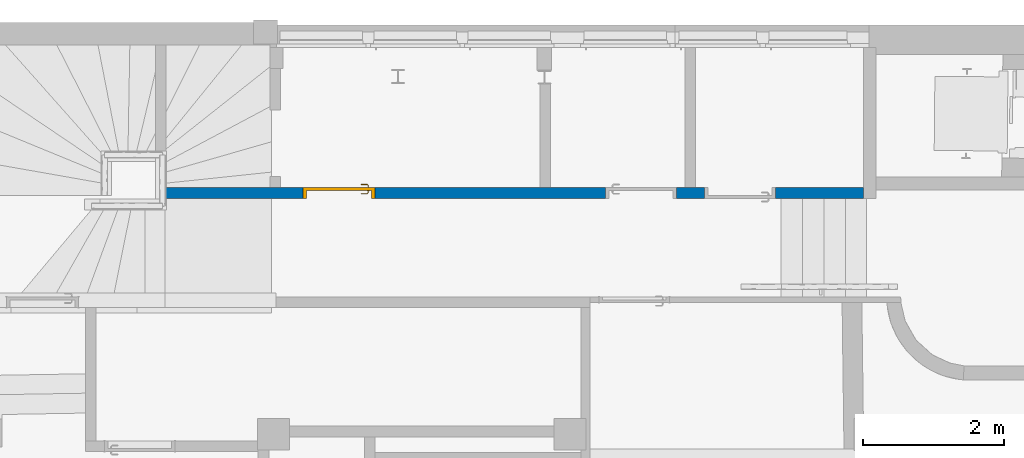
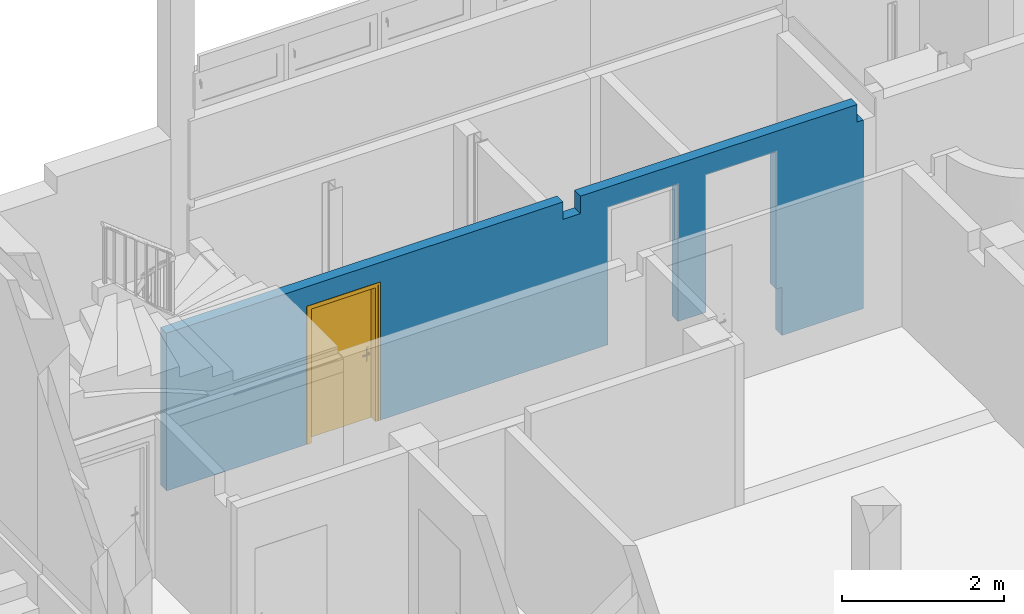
# One storey, part 13 of 39: 1 door, 1 wall, 3 openings.
"""IFC4 building model written with IfcOpenShell, lengths in metres."""

from ifc_helpers import new_model, entity, si_unit, converted_unit, derived_unit, direction, frame, origin, place, context, subcontext, project, spatial, indexed_curve, outline, extrude, polygons, source, transform, mapped, material, material_list, layer, layer_set, constituent, constituent_set, type_object, type_shapes, element, fill, save


model = new_model("IFC4")

# Units and contexts
model_context = context("Model", 3, precision=1e-05, world=origin(), true_north=direction((6.12303176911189e-17, 1.0)))
body_context = subcontext(model_context, "Body", "Model", "MODEL_VIEW")
ifc_project = project(units=[si_unit("LENGTHUNIT", "METRE"), si_unit("AREAUNIT", "SQUARE_METRE"), si_unit("VOLUMEUNIT", "CUBIC_METRE"), converted_unit("PLANEANGLEUNIT", "DEGREE", entity("IfcRatioMeasure", 0.0174532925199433), si_unit("PLANEANGLEUNIT", "RADIAN"), dimensions=[0, 0, 0, 0, 0, 0, 0]), si_unit("MASSUNIT", "GRAM", prefix="KILO"), derived_unit("MASSDENSITYUNIT", [(si_unit("MASSUNIT", "GRAM", prefix="KILO"), 1), (si_unit("LENGTHUNIT", "METRE"), -3)]), derived_unit("MOMENTOFINERTIAUNIT", [(si_unit("LENGTHUNIT", "METRE"), 4)]), si_unit("TIMEUNIT", "SECOND"), si_unit("FREQUENCYUNIT", "HERTZ"), si_unit("THERMODYNAMICTEMPERATUREUNIT", "DEGREE_CELSIUS"), derived_unit("THERMALTRANSMITTANCEUNIT", [(si_unit("MASSUNIT", "GRAM", prefix="KILO"), 1), (si_unit("THERMODYNAMICTEMPERATUREUNIT", "KELVIN"), -1), (si_unit("TIMEUNIT", "SECOND"), -3)]), derived_unit("VOLUMETRICFLOWRATEUNIT", [(si_unit("LENGTHUNIT", "METRE"), 3), (si_unit("TIMEUNIT", "SECOND"), -1)]), si_unit("ELECTRICCURRENTUNIT", "AMPERE"), si_unit("ELECTRICVOLTAGEUNIT", "VOLT"), si_unit("POWERUNIT", "WATT"), si_unit("FORCEUNIT", "NEWTON", prefix="KILO"), si_unit("ILLUMINANCEUNIT", "LUX"), si_unit("LUMINOUSFLUXUNIT", "LUMEN"), si_unit("LUMINOUSINTENSITYUNIT", "CANDELA"), derived_unit("USERDEFINED", [(si_unit("MASSUNIT", "GRAM", prefix="KILO"), -1), (si_unit("LENGTHUNIT", "METRE"), -2), (si_unit("TIMEUNIT", "SECOND"), 3), (si_unit("LUMINOUSFLUXUNIT", "LUMEN"), 1)]), derived_unit("LINEARVELOCITYUNIT", [(si_unit("LENGTHUNIT", "METRE"), 1), (si_unit("TIMEUNIT", "SECOND"), -1)]), si_unit("PRESSUREUNIT", "PASCAL"), derived_unit("USERDEFINED", [(si_unit("LENGTHUNIT", "METRE"), -2), (si_unit("MASSUNIT", "GRAM", prefix="KILO"), 1), (si_unit("TIMEUNIT", "SECOND"), -2)]), derived_unit("LINEARFORCEUNIT", [(si_unit("MASSUNIT", "GRAM", prefix="KILO"), 1), (si_unit("LENGTHUNIT", "METRE"), 1), (si_unit("TIMEUNIT", "SECOND"), -2), (si_unit("LENGTHUNIT", "METRE"), -1)]), derived_unit("PLANARFORCEUNIT", [(si_unit("MASSUNIT", "GRAM", prefix="KILO"), 1), (si_unit("LENGTHUNIT", "METRE"), 1), (si_unit("TIMEUNIT", "SECOND"), -2), (si_unit("LENGTHUNIT", "METRE"), -2)])], contexts=[model_context])

# Site, building, storey
site_placement = place(None, origin())
site = spatial("IfcSite", under=ifc_project, at=site_placement, Name="Default", CompositionType="ELEMENT")
building_placement = place(site_placement, origin())
building = spatial("IfcBuilding", under=site, at=building_placement, Name="HOTEL CONSULAIRE BOULOGNE SUR MER", CompositionType="ELEMENT")
storey_placement = place(building_placement, frame((0.0, 0.0, -5.02343668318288)))
storey = spatial("IfcBuildingStorey", under=building, at=storey_placement, Name="SS3", CompositionType="ELEMENT", Elevation=-5.02343668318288)

# Wall, openings, door
ifc_material_1 = material(Name="Mur par défaut", Category="Divers")
ifc_layer = layer(ifc_material_1, 0.15, Name="Mur par défaut", Category="Divers")
ifc_layer_set = layer_set([ifc_layer], Name="Mur de base:Générique - Int. 150 mm")
wall_type = type_object("IfcWallType", Name="Mur de base:Générique - Int. 150 mm", PredefinedType="NOTDEFINED", material=ifc_layer_set)
wall_placement = place(storey_placement, frame((-2.83014197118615, -12.1964663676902, -0.649999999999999)))
wall = element("IfcWall", 1, at=wall_placement, inside=storey, type_object=wall_type, material=ifc_layer_set, Name="Mur de base:Générique - Int. 150 mm", ObjectType="Mur de base:Générique - Int. 150 mm", PredefinedType="NOTDEFINED", context=body_context, shape_type="Tessellation", body=[
    polygons([(-3.07818758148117e-15, 0.0750000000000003, 3.11399047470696), (-4.2123720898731e-16, -0.0750000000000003, 3.11399047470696), (5.66557991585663, -0.0750000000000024, 3.11399047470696), (5.66557991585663, 0.0749999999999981, 3.11399047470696), (5.52731874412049, 0.0750000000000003, 3.11399047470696), (5.37731874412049, 0.0750000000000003, 3.11399047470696), (2.01727035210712, -0.0750000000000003, 0.73), (1.20196355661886e-16, -0.0750000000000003, 0.73), (1.70413806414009e-16, 0.0750000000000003, 0.73), (1.5512703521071, 0.0750000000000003, 0.73), (1.7012703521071, 0.0749999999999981, 0.73), (2.01727035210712, 0.0750000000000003, 0.73), (6.3073187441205, -0.0750000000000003, 0.73), (3.03727035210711, -0.0750000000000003, 0.73), (3.03727035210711, 0.0750000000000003, 0.73), (5.37731874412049, 0.0750000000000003, 0.73), (5.52731874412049, 0.0750000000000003, 0.73), (6.3073187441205, 0.0750000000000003, 0.73), (7.71019694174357, -0.0750000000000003, 0.73), (7.3073187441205, -0.0750000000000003, 0.73), (7.3073187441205, 0.0750000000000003, 0.73), (7.43219694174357, 0.0750000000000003, 0.73), (7.58219694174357, 0.0750000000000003, 0.73), (7.71019694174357, 0.0750000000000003, 0.73), (8.79234918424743, -0.0750000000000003, 0.73), (8.79234918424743, -0.0750000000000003, 0.0), (9.95912223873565, -0.0750000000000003, 0.0), (9.95912223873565, -0.0750000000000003, 2.84999999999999), (9.87057991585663, -0.0750000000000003, 2.84999999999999), (9.87057991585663, -0.0750000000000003, 3.11399047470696), (5.91557991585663, -0.0750000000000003, 3.11399047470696), (5.91557991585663, -0.0750000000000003, 2.84999999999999), (5.66557991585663, -0.0750000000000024, 2.84999999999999), (2.01727035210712, -0.0750000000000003, 2.80500000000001), (3.03727035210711, -0.0750000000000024, 2.80500000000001), (6.3073187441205, -0.0750000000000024, 2.805), (7.3073187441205, -0.0750000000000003, 2.805), (7.71019694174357, -0.0750000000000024, 2.805), (8.71019694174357, -0.0750000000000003, 2.805), (8.71019694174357, -0.0750000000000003, 0.73), (9.95912223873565, 0.0750000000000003, 0.0), (8.79234918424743, 0.0750000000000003, 0.0), (8.79234918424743, 0.0750000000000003, 0.44), (8.79234918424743, 0.0750000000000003, 0.73), (8.71019694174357, 0.0750000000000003, 0.729999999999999), (8.71019694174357, 0.0750000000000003, 2.805), (7.71019694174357, 0.0749999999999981, 2.805), (7.3073187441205, 0.0750000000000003, 2.805), (6.3073187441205, 0.0749999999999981, 2.805), (3.03727035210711, 0.0749999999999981, 2.80500000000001), (2.01727035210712, 0.0750000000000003, 2.80500000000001), (5.66557991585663, 0.0749999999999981, 2.84999999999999), (5.91557991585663, 0.0750000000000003, 2.84999999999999), (5.91557991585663, 0.0750000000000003, 3.11399047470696), (7.43219694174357, 0.0750000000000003, 3.11399047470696), (7.58219694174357, 0.0750000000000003, 3.11399047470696), (9.87057991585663, 0.0750000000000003, 3.11399047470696), (9.87057991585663, 0.0750000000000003, 2.84999999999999), (9.95912223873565, 0.0750000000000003, 2.84999999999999), (9.95912223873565, 0.0750000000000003, 0.73), (9.95912223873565, 0.0750000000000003, 0.44)], [[[2, 3, 4, 5, 6, 1]], [[32, 53, 52, 33]], [[28, 59, 58, 29]], [[31, 30, 57, 56, 55, 54]], [[11, 12, 7, 8, 9, 10]], [[17, 18, 13, 14, 15, 16]], [[23, 24, 19, 20, 21, 22]], [[34, 51, 50, 35]], [[49, 48, 37, 36]], [[38, 47, 46, 39]], [[27, 26, 42, 41]], [[45, 44, 25, 40]], [[34, 35, 14, 13, 36, 37, 20, 19, 38, 39, 40, 25, 26, 27, 28, 29, 30, 31, 32, 33, 3, 2, 8, 7]], [[41, 42, 43, 44, 45, 46, 47, 24, 23, 22, 21, 48, 49, 18, 17, 16, 15, 50, 51, 12, 11, 10, 9, 1, 6, 5, 4, 52, 53, 54, 55, 56, 57, 58, 59, 60, 61]], [[7, 12, 51, 34]], [[18, 49, 36, 13]], [[19, 24, 47, 38]], [[33, 52, 4, 3]], [[30, 29, 58, 57]], [[27, 41, 61, 60, 59, 28]], [[35, 50, 15, 14]], [[21, 20, 37, 48]], [[39, 46, 45, 40]], [[31, 54, 53, 32]], [[8, 2, 1, 9]], [[26, 25, 44, 43, 42]]], closed=True),
])
opening_1_placement = place(wall_placement, frame((2.01727035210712, -0.0749999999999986, 0.73)))
opening_1 = element("IfcOpeningElement", 2, at=opening_1_placement, cuts=wall, Name="Int. Simple:PP0.95x2.04 2:1", ObjectType="Opening", PredefinedType="OPENING", context=body_context, shape_type="SweptSolid", body=[
    extrude(outline(indexed_curve([(0.0, 2.70716782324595e-16), (2.07500000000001, 2.70716782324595e-16), (2.07500000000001, 1.02), (0.0, 1.02), (0.0, 2.70716782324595e-16)], self_intersect=False)), frame((0.0, 0.0, 0.0), z_axis=(0.0, 1.0, 0.0), x_axis=(0.0, 0.0, 1.0)), (0.0, 0.0, 1.0), 0.15),
])
opening_2_placement = place(wall_placement, frame((6.3073187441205, -0.0749999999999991, 0.73)))
element("IfcOpeningElement", 3, at=opening_2_placement, cuts=wall, Name="Int. Simple:PP0.93x2.04:1", ObjectType="Opening", PredefinedType="OPENING", context=body_context, shape_type="SweptSolid", body=[
    extrude(outline(indexed_curve([(0.0, 1.0), (0.0, -3.46303244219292e-30), (2.075, -3.46303244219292e-30), (2.075, 1.0), (0.0, 1.0)], self_intersect=False)), frame((0.0, 0.0, 0.0), z_axis=(0.0, 1.0, 0.0), x_axis=(0.0, 0.0, 1.0)), (0.0, 0.0, 1.0), 0.15),
])
opening_3_placement = place(wall_placement, frame((8.71019694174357, 0.0749999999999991, 0.73)))
element("IfcOpeningElement", 4, at=opening_3_placement, cuts=wall, Name="Int. Simple:PP0.93x2.04:1", ObjectType="Opening", PredefinedType="OPENING", context=body_context, shape_type="SweptSolid", body=[
    extrude(outline(indexed_curve([(0.0, 1.0), (0.0, -3.46303244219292e-30), (2.075, -3.46303244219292e-30), (2.075, 1.0), (0.0, 1.0)], self_intersect=False)), frame((0.0, 0.0, 0.0), z_axis=(0.0, -1.0, 0.0), x_axis=(0.0, 0.0, 1.0)), (0.0, 0.0, 1.0), 0.15),
])
ifc_material_2 = material(Name="Finition Peinture - Blanc satiné", Category="Peinture")
ifc_constituent_1 = constituent(ifc_material_2, Name="Finition Peinture - Blanc satiné", Category="Matériaux")
ifc_material_3 = material(Name="Bois - Panneau de porte", Category="Bois")
ifc_constituent_2 = constituent(ifc_material_3, Name="Bois - Panneau de porte", Category="Matériaux")
ifc_material_4 = material(Name="Bois - Cadre de porte", Category="Bois")
ifc_constituent_3 = constituent(ifc_material_4, Name="Bois - Cadre de porte", Category="Matériaux")
ifc_constituent_set = constituent_set(constituents=[ifc_constituent_1, ifc_constituent_2, ifc_constituent_3], Name="MaterialConstituentSet")
ifc_material_list = material_list([ifc_material_4, ifc_material_4, ifc_material_2, ifc_material_3])
door_type = type_object("IfcDoorType", Name="Int. Simple:PP0.95x2.04 2", OperationType="NOTDEFINED", PredefinedType="DOOR", material=ifc_material_list)
shared_shape = source(origin(), body_context, "Body", "Tessellation", [
    polygons([(0.0750000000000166, -0.00500000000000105, 0.870000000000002), (0.0846472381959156, -0.00500000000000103, 0.866003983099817), (0.0950000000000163, -0.00500000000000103, 0.86464101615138), (0.105352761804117, -0.00500000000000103, 0.866003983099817), (0.115000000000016, -0.00500000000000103, 0.870000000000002), (0.115000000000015, -0.00500000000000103, 1.08), (0.105352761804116, -0.00500000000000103, 1.08399601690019), (0.0950000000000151, -0.00500000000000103, 1.08535898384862), (0.0846472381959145, -0.00500000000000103, 1.08399601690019), (0.0750000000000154, -0.00500000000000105, 1.08), (0.0750000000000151, -1.04902753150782e-15, 0.870000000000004), (0.0750000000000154, -1.04902753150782e-15, 1.08), (0.0846472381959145, -1.04902753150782e-15, 1.08399601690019), (0.0950000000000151, -1.04056763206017e-15, 1.08535898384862), (0.105352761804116, -1.04056763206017e-15, 1.08399601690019), (0.115000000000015, -1.03210773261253e-15, 1.08), (0.115000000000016, -1.03210773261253e-15, 0.870000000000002), (0.105352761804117, -1.04056763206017e-15, 0.866003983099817), (0.0950000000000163, -1.04056763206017e-15, 0.86464101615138), (0.0846472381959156, -1.04902753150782e-15, 0.866003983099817)], [[[4, 5, 6, 7, 8, 9, 10, 1, 2, 3]], [[15, 16, 17, 18, 19, 20, 11, 12, 13, 14]], [[11, 20, 2, 1]], [[2, 20, 19, 3]], [[19, 18, 4, 3]], [[18, 17, 5, 4]], [[6, 5, 17, 16]], [[16, 15, 7, 6]], [[7, 15, 14, 8]], [[14, 13, 9, 8]], [[13, 12, 10, 9]], [[1, 10, 12, 11]]], closed=True),
    polygons([(0.115000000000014, 0.0399999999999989, 1.08), (0.105352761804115, 0.0399999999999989, 1.08399601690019), (0.0950000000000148, 0.0399999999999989, 1.08535898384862), (0.0846472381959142, 0.0399999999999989, 1.08399601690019), (0.0750000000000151, 0.0399999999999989, 1.08), (0.0750000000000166, 0.0399999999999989, 0.870000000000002), (0.0846472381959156, 0.0399999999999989, 0.866003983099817), (0.0950000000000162, 0.0399999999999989, 0.86464101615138), (0.105352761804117, 0.0399999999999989, 0.866003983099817), (0.115000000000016, 0.0399999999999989, 0.870000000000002), (0.115000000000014, 0.044999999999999, 1.08), (0.115000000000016, 0.044999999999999, 0.870000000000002), (0.105352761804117, 0.0449999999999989, 0.866003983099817), (0.0950000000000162, 0.0449999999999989, 0.86464101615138), (0.0846472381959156, 0.0449999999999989, 0.866003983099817), (0.075000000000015, 0.0449999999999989, 0.870000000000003), (0.0750000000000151, 0.0449999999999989, 1.08), (0.0846472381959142, 0.0449999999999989, 1.08399601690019), (0.0950000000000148, 0.0449999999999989, 1.08535898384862), (0.105352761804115, 0.0449999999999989, 1.08399601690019)], [[[9, 10, 1, 2, 3, 4, 5, 6, 7, 8]], [[20, 11, 12, 13, 14, 15, 16, 17, 18, 19]], [[11, 20, 2, 1]], [[2, 20, 19, 3]], [[19, 18, 4, 3]], [[18, 17, 5, 4]], [[6, 5, 17, 16]], [[16, 15, 7, 6]], [[7, 15, 14, 8]], [[14, 13, 9, 8]], [[13, 12, 10, 9]], [[1, 10, 12, 11]]], closed=True),
    polygons([(0.0889999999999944, -0.00500000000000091, 1.007), (0.0929747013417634, -0.00500000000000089, 1.00778044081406), (0.0970252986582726, -0.00500000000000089, 1.00778044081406), (0.101000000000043, -0.00500000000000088, 1.00699999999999), (0.101000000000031, -0.00500000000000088, 0.993000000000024), (0.0970252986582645, -0.00500000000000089, 0.992219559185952), (0.0929747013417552, -0.00500000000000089, 0.99221955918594), (0.0889999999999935, -0.00500000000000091, 0.992999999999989), (0.0889999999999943, -0.0326509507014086, 1.007), (0.0929747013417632, -0.0310045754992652, 1.00778044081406), (0.0970252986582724, -0.0293267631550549, 1.00778044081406), (0.101000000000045, -0.0276803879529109, 1.007), (0.101000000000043, -0.0276803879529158, 0.993000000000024), (0.0970252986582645, -0.0293267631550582, 0.992219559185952), (0.0929747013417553, -0.0310045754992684, 0.99221955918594), (0.0889999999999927, -0.0326509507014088, 0.992999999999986), (0.107377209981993, -0.051028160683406, 1.007), (0.109023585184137, -0.0470534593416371, 1.00778044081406), (0.110701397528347, -0.0430028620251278, 1.00778044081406), (0.112347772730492, -0.0390281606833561, 1.007), (0.112347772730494, -0.0390281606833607, 0.993000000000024), (0.110701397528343, -0.0430028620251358, 0.992219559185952), (0.109023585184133, -0.0470534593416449, 0.99221955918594), (0.107377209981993, -0.0510281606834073, 0.992999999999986), (0.195018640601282, -0.0510281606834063, 1.00699999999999), (0.195018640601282, -0.051028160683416, 0.992999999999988), (0.195018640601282, -0.0470534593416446, 0.99221955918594), (0.195018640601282, -0.0430028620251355, 0.992219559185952), (0.195018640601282, -0.0390281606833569, 0.993000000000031), (0.195018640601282, -0.0390281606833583, 1.007), (0.195018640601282, -0.0430028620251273, 1.00778044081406), (0.195018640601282, -0.0470534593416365, 1.00778044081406), (0.147307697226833, -0.0510281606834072, 1.007), (0.1528600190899, -0.045028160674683, 1.0078786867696), (0.153683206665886, -0.039028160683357, 1.007), (0.147307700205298, -0.0510281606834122, 0.992999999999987), (0.152860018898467, -0.0450281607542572, 0.992121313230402), (0.153683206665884, -0.0390281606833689, 0.993000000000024)], [[[2, 3, 4, 5, 6, 7, 8, 1]], [[21, 20, 35, 30, 29, 38]], [[9, 10, 2, 1]], [[10, 18, 19, 11, 3, 2]], [[11, 12, 4, 3]], [[5, 4, 12, 13]], [[26, 27, 28, 29, 30, 31, 32, 25]], [[13, 14, 6, 5]], [[14, 22, 23, 15, 7, 6]], [[15, 16, 8, 7]], [[1, 8, 16, 9]], [[17, 18, 10, 9]], [[19, 20, 12, 11]], [[13, 12, 20, 21]], [[21, 22, 14, 13]], [[23, 24, 16, 15]], [[9, 16, 24, 17]], [[33, 32, 34]], [[25, 32, 33]], [[18, 17, 33]], [[34, 35, 19]], [[20, 19, 35]], [[35, 31, 30]], [[32, 31, 34]], [[31, 35, 34]], [[18, 33, 34]], [[18, 34, 19]], [[38, 28, 37]], [[36, 37, 27]], [[21, 38, 22]], [[38, 29, 28]], [[26, 36, 27]], [[24, 23, 36]], [[36, 23, 37]], [[23, 22, 37]], [[22, 38, 37]], [[27, 37, 28]], [[17, 24, 36, 26, 25, 33]]], closed=True),
    polygons([(0.101000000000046, 0.0449999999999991, 0.993000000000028), (0.101000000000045, 0.0449999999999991, 1.007), (0.0970252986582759, 0.0449999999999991, 1.00778044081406), (0.0929747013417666, 0.0449999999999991, 1.00778044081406), (0.0889999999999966, 0.0449999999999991, 1.007), (0.0889999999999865, 0.0449999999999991, 0.992999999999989), (0.0929747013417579, 0.0449999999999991, 0.99221955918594), (0.0970252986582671, 0.0449999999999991, 0.992219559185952), (0.101000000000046, 0.067485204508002, 0.993000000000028), (0.101000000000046, 0.0674852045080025, 1.007), (0.0970252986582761, 0.0691315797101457, 1.00778044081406), (0.0929747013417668, 0.070809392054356, 1.00778044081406), (0.0889999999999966, 0.0724557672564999, 1.007), (0.0889999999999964, 0.0724557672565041, 0.992999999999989), (0.0929747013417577, 0.0708093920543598, 0.99221955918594), (0.0970252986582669, 0.0691315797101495, 0.992219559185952), (0.112485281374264, 0.0789704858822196, 0.993000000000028), (0.112485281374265, 0.0789704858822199, 1.007), (0.110838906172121, 0.0829451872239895, 1.00778044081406), (0.109161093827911, 0.0869957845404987, 1.00778044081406), (0.107514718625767, 0.090970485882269, 1.007), (0.10751471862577, 0.090970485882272, 0.992999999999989), (0.109161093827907, 0.0869957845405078, 0.99221955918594), (0.110838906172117, 0.0829451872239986, 0.992219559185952), (0.19504578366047, 0.0789704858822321, 0.993000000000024), (0.19504578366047, 0.0829451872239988, 0.992219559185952), (0.19504578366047, 0.086995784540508, 0.99221955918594), (0.19504578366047, 0.0909704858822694, 0.992999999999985), (0.19504578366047, 0.0909704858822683, 1.007), (0.19504578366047, 0.0869957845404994, 1.00778044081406), (0.19504578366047, 0.0829451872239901, 1.00778044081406), (0.19504578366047, 0.0789704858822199, 1.007), (0.147445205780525, 0.0909704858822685, 1.007), (0.15294234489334, 0.0849704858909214, 1.0078786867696), (0.153765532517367, 0.0789704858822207, 1.007), (0.147445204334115, 0.0909704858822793, 0.992999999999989), (0.152942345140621, 0.0849704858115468, 0.992121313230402), (0.153765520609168, 0.0789704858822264, 0.993000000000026)], [[[4, 5, 6, 7, 8, 1, 2, 3]], [[18, 17, 38, 25, 32, 35]], [[2, 1, 9, 10]], [[25, 26, 27, 28, 29, 30, 31, 32]], [[10, 11, 3, 2]], [[11, 19, 20, 12, 4, 3]], [[12, 13, 5, 4]], [[6, 5, 13, 14]], [[14, 15, 7, 6]], [[15, 23, 24, 16, 8, 7]], [[16, 9, 1, 8]], [[10, 9, 17, 18]], [[18, 19, 11, 10]], [[20, 21, 13, 12]], [[14, 13, 21, 22]], [[22, 23, 15, 14]], [[24, 17, 9, 16]], [[35, 31, 34]], [[33, 34, 30]], [[18, 35, 19]], [[35, 32, 31]], [[29, 33, 30]], [[21, 20, 33]], [[33, 20, 34]], [[20, 19, 34]], [[19, 35, 34]], [[30, 34, 31]], [[21, 33, 29, 28, 36, 22]], [[36, 27, 37]], [[28, 27, 36]], [[23, 22, 36]], [[37, 38, 24]], [[17, 24, 38]], [[38, 26, 25]], [[27, 26, 37]], [[26, 38, 37]], [[23, 36, 37]], [[23, 37, 24]]], closed=True),
    polygons([(0.0350000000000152, 0.04, 2.04), (0.985000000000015, 0.04, 2.04), (0.985000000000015, 0.04, 0.0), (0.0350000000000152, 0.04, 0.0), (0.0350000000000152, 5.07593966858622e-17, 2.04), (0.0350000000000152, 5.07593966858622e-17, 0.0), (0.985000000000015, 5.07593966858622e-17, 0.0), (0.985000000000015, 5.07593966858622e-17, 2.04)], [[[4, 1, 2, 3]], [[7, 8, 5, 6]], [[2, 1, 5, 8]], [[3, 2, 8, 7]], [[4, 3, 7, 6]], [[1, 4, 6, 5]]], closed=True),
    polygons([(2.70716782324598e-16, 1.69197988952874e-17, 0.0), (2.70716782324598e-16, 0.150000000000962, 0.0), (0.0500000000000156, 0.150000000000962, 0.0), (0.0500000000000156, 0.0400000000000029, 0.0), (0.0350000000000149, 0.0400000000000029, 0.0), (0.0350000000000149, 1.69197988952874e-17, 0.0), (2.70716782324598e-16, 1.69197988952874e-17, 2.07500000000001), (2.70716782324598e-16, 0.150000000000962, 2.07500000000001), (1.02, 0.150000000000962, 2.07500000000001), (1.02, 0.150000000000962, 0.0), (0.96999999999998, 0.150000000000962, -4.03399441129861e-24), (0.969999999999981, 0.150000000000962, 2.025), (0.0500000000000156, 0.150000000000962, 2.02499999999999), (0.0500000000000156, 0.0400000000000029, 2.02499999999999), (0.96999999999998, 0.0400000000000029, 2.02499999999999), (0.96999999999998, 0.0400000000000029, -1.38450562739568e-24), (0.984999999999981, 0.0400000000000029, -4.10371668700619e-24), (0.984999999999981, 0.0400000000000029, 2.04), (0.035000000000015, 0.0400000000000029, 2.04), (0.035000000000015, 1.69197988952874e-17, 2.04), (0.984999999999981, 1.69197988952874e-17, 2.04), (0.984999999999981, 1.69197988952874e-17, -8.70076159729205e-25), (1.02, 1.69197988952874e-17, 1.5819591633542e-24), (1.02, 1.69197988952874e-17, 2.07500000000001)], [[[5, 6, 1, 2, 3, 4]], [[11, 10, 23, 22, 17, 16]], [[14, 13, 12, 15]], [[20, 19, 18, 21]], [[2, 1, 7, 8]], [[15, 12, 11, 16]], [[21, 18, 17, 22]], [[3, 2, 8, 9, 10, 11, 12, 13]], [[4, 3, 13, 14]], [[6, 5, 19, 20]], [[9, 24, 23, 10]], [[16, 17, 18, 19, 5, 4, 14, 15]], [[22, 23, 24, 7, 1, 6, 20, 21]], [[8, 7, 24, 9]]], closed=True),
    polygons([(0.0150000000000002, 0.150000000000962, 0.0), (-0.0149999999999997, 0.150000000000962, 0.0), (-0.0149999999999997, 0.155000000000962, 0.0), (0.0150000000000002, 0.155000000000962, 0.0), (0.0150000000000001, 0.150000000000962, 2.06000000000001), (1.005, 0.150000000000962, 2.06000000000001), (1.005, 0.150000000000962, 7.44135206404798e-25), (1.035, 0.150000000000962, 3.21152985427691e-24), (1.035, 0.150000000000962, 2.09000000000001), (-0.0149999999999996, 0.150000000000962, 2.09000000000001), (-0.0149999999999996, 0.155000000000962, 2.09000000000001), (1.035, 0.155000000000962, 2.09000000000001), (1.035, 0.155000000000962, 4.82535527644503e-25), (1.005, 0.155000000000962, 5.65531304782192e-24), (1.005, 0.155000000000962, 2.06000000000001), (0.0150000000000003, 0.155000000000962, 2.06000000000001)], [[[1, 2, 3, 4]], [[14, 13, 8, 7]], [[5, 16, 15, 6]], [[7, 8, 9, 10, 2, 1, 5, 6]], [[3, 2, 10, 11]], [[6, 15, 14, 7]], [[4, 3, 11, 12, 13, 14, 15, 16]], [[1, 4, 16, 5]], [[12, 9, 8, 13]], [[11, 10, 9, 12]]], closed=True),
    polygons([(1.005, -0.00499999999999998, 0.0), (1.005, 1.69197988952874e-17, 0.0), (1.035, 1.69197988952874e-17, 0.0), (1.035, -0.00499999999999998, 0.0), (0.0150000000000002, -0.00499999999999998, 0.0), (-0.0149999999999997, -0.00499999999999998, 0.0), (-0.0149999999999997, 1.69197988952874e-17, 0.0), (0.0150000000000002, 1.69197988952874e-17, 0.0), (0.0150000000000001, -0.00499999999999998, 2.06000000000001), (1.005, -0.00499999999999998, 2.06000000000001), (1.035, -0.00499999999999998, 2.09000000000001), (-0.0149999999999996, -0.00499999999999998, 2.09000000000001), (-0.0149999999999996, 1.69197988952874e-17, 2.09000000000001), (1.035, 1.69197988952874e-17, 2.09000000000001), (1.005, 1.69197988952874e-17, 2.06000000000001), (0.0150000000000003, 1.69197988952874e-17, 2.06000000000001)], [[[2, 3, 4, 1]], [[6, 7, 8, 5]], [[9, 16, 15, 10]], [[1, 4, 11, 12, 6, 5, 9, 10]], [[7, 6, 12, 13]], [[10, 15, 2, 1]], [[8, 7, 13, 14, 3, 2, 15, 16]], [[5, 8, 16, 9]], [[14, 11, 4, 3]], [[13, 12, 11, 14]]], closed=True),
])
type_shapes(door_type, [shared_shape])
door_placement = place(opening_1_placement, frame((1.02, 0.14999999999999, 0.0), z_axis=(0.0, 0.0, 1.0), x_axis=(-1.0, 0.0, 0.0)))
door = element("IfcDoor", 5, at=door_placement, inside=storey, type_object=door_type, material=ifc_constituent_set, Name="Int. Simple:PP0.95x2.04 2", ObjectType="Int. Simple:PP0.95x2.04 2", OperationType="NOTDEFINED", OverallHeight=2.07500000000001, OverallWidth=1.02, PredefinedType="DOOR", context=body_context, shape_type="MappedRepresentation", body=[
    mapped(shared_shape, transform((0.0, 0.0, 0.0), scale=1.0)),
])
fill(opening_1, door)

save(model, "model.ifc")
